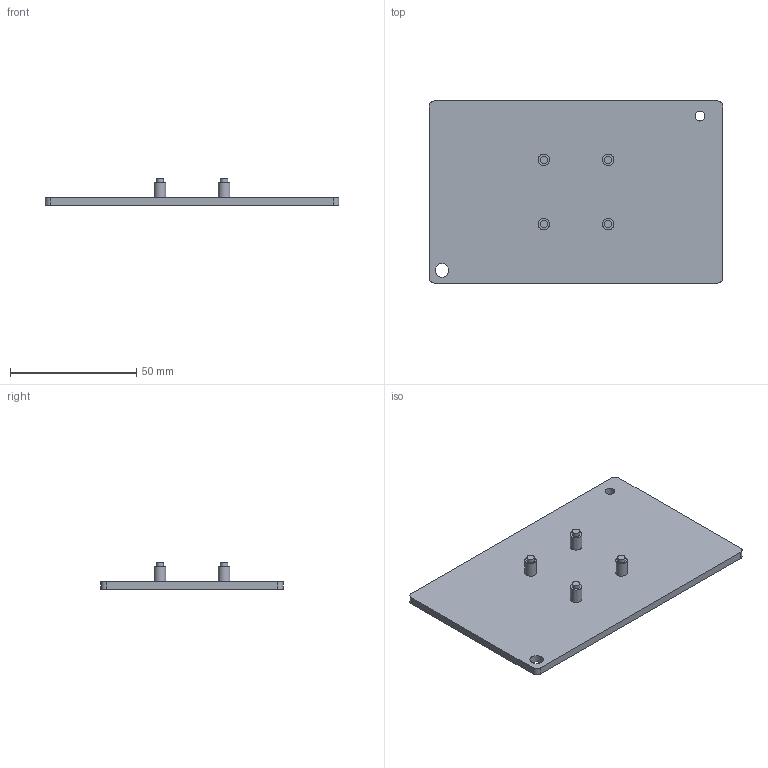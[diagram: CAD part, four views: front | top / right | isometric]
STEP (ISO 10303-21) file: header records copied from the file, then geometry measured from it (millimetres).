
FILE_DESCRIPTION(('Open CASCADE Model'),'2;1');
FILE_NAME('Open CASCADE Shape Model','2026-11-18T17:24:19',('Author'),( 'Open CASCADE'),'Open CASCADE STEP processor 7.8','Open CASCADE 7.8' ,'Unknown');
FILE_SCHEMA(('AUTOMOTIVE_DESIGN { 1 0 10303 214 1 1 1 1 }'));
Length unit declared in the file: millimetre
Products named in the file (1): Open CASCADE STEP translator 7.8 2
Bounding box: 116 x 72 x 10.5 mm (x, y, z)
Volume: 25379.7 mm3; surface area: 18234.3 mm2
Topology: 1 solids, 1 shells, 28 faces, 54 edges, 36 vertices
Faces by surface type: plane 14, cylinder 14
Full cylindrical faces by diameter (mm): 2.902 x4, 3.9 x1, 4.6 x4, 5.4 x1
Entity records: 1458 total; most frequent: CARTESIAN_POINT 251, DIRECTION 244, ORIENTED_EDGE 108, PCURVE 108, DEFINITIONAL_REPRESENTATION 108, LINE 106, VECTOR 106, AXIS2_PLACEMENT_3D 57
